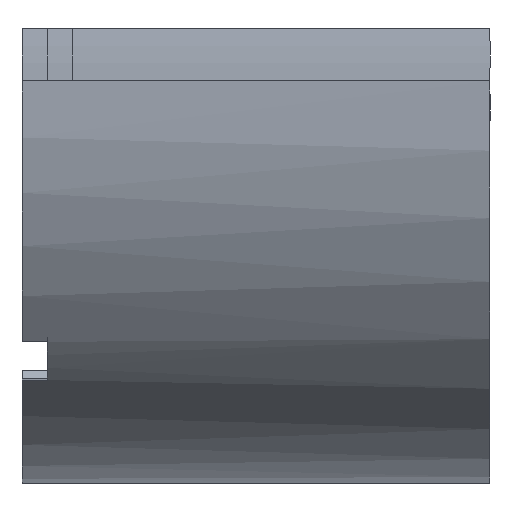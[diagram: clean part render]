
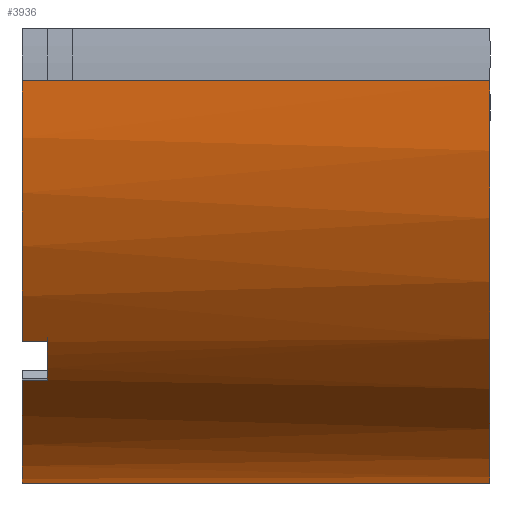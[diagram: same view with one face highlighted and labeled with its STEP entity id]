
A CAD part, top view. The second image highlights one B-rep face of the part: STEP entity #3936.
In plain terms, the highlighted cylindrical face has radius 31.75 mm (diameter 63.5 mm), a partial arc.
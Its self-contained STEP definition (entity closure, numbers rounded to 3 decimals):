
#2144 = PLANE('',#2145);
#2145 = AXIS2_PLACEMENT_3D('',#2146,#2147,#2148);
#2146 = CARTESIAN_POINT('',(37.75,32.,32.));
#2147 = DIRECTION('',(1.,0.,0.));
#2148 = DIRECTION('',(0.,0.,1.));
#2245 = PLANE('',#2246);
#2246 = AXIS2_PLACEMENT_3D('',#2247,#2248,#2249);
#2247 = CARTESIAN_POINT('',(0.75,32.,32.));
#2248 = DIRECTION('',(0.,1.,0.));
#2249 = DIRECTION('',(0.,0.,1.));
#2272 = PLANE('',#2273);
#2273 = AXIS2_PLACEMENT_3D('',#2274,#2275,#2276);
#2274 = CARTESIAN_POINT('',(0.75,32.,32.));
#2275 = DIRECTION('',(1.,0.,0.));
#2276 = DIRECTION('',(0.,0.,1.));
#2406 = CYLINDRICAL_SURFACE('',#2407,3.7);
#2407 = AXIS2_PLACEMENT_3D('',#2408,#2409,#2410);
#2408 = CARTESIAN_POINT('',(0.75,12.,52.5));
#2409 = DIRECTION('',(1.,0.,0.));
#2410 = DIRECTION('',(0.,0.,-1.));
#2434 = PLANE('',#2435);
#2435 = AXIS2_PLACEMENT_3D('',#2436,#2437,#2438);
#2436 = CARTESIAN_POINT('',(2.75,12.,52.5));
#2437 = DIRECTION('',(1.,0.,0.));
#2438 = DIRECTION('',(0.,0.,-1.));
#2461 = CYLINDRICAL_SURFACE('',#2462,3.7);
#2462 = AXIS2_PLACEMENT_3D('',#2463,#2464,#2465);
#2463 = CARTESIAN_POINT('',(0.75,12.,52.5));
#2464 = DIRECTION('',(1.,0.,0.));
#2465 = DIRECTION('',(0.,0.,-1.));
#2489 = PLANE('',#2490);
#2490 = AXIS2_PLACEMENT_3D('',#2491,#2492,#2493);
#2491 = CARTESIAN_POINT('',(0.75,32.,32.));
#2492 = DIRECTION('',(1.,0.,0.));
#2493 = DIRECTION('',(0.,0.,1.));
#2922 = EDGE_CURVE('',#2923,#2925,#2927,.T.);
#2923 = VERTEX_POINT('',#2924);
#2924 = CARTESIAN_POINT('',(37.75,32.,63.75));
#2925 = VERTEX_POINT('',#2926);
#2926 = CARTESIAN_POINT('',(37.75,0.25,32.));
#2927 = SURFACE_CURVE('',#2928,(#2933,#2940),.PCURVE_S1.);
#2928 = CIRCLE('',#2929,31.75);
#2929 = AXIS2_PLACEMENT_3D('',#2930,#2931,#2932);
#2930 = CARTESIAN_POINT('',(37.75,32.,32.));
#2931 = DIRECTION('',(1.,0.,-0.));
#2932 = DIRECTION('',(0.,0.,1.));
#2933 = PCURVE('',#2144,#2934);
#2934 = DEFINITIONAL_REPRESENTATION('',(#2935),#2939);
#2935 = CIRCLE('',#2936,31.75);
#2936 = AXIS2_PLACEMENT_2D('',#2937,#2938);
#2937 = CARTESIAN_POINT('',(0.,0.));
#2938 = DIRECTION('',(1.,0.));
#2939 = ( GEOMETRIC_REPRESENTATION_CONTEXT(2) 
PARAMETRIC_REPRESENTATION_CONTEXT() REPRESENTATION_CONTEXT('2D SPACE',''
  ) );
#2940 = PCURVE('',#2941,#2946);
#2941 = CYLINDRICAL_SURFACE('',#2942,31.75);
#2942 = AXIS2_PLACEMENT_3D('',#2943,#2944,#2945);
#2943 = CARTESIAN_POINT('',(0.75,32.,32.));
#2944 = DIRECTION('',(1.,0.,0.));
#2945 = DIRECTION('',(0.,0.,1.));
#2946 = DEFINITIONAL_REPRESENTATION('',(#2947),#2951);
#2947 = LINE('',#2948,#2949);
#2948 = CARTESIAN_POINT('',(0.,37.));
#2949 = VECTOR('',#2950,1.);
#2950 = DIRECTION('',(1.,0.));
#2951 = ( GEOMETRIC_REPRESENTATION_CONTEXT(2) 
PARAMETRIC_REPRESENTATION_CONTEXT() REPRESENTATION_CONTEXT('2D SPACE',''
  ) );
#3010 = VERTEX_POINT('',#3011);
#3011 = CARTESIAN_POINT('',(0.75,32.,63.75));
#3032 = EDGE_CURVE('',#3010,#3033,#3035,.T.);
#3033 = VERTEX_POINT('',#3034);
#3034 = CARTESIAN_POINT('',(0.75,11.387,56.149));
#3035 = SURFACE_CURVE('',#3036,(#3041,#3048),.PCURVE_S1.);
#3036 = CIRCLE('',#3037,31.75);
#3037 = AXIS2_PLACEMENT_3D('',#3038,#3039,#3040);
#3038 = CARTESIAN_POINT('',(0.75,32.,32.));
#3039 = DIRECTION('',(1.,0.,-0.));
#3040 = DIRECTION('',(0.,0.,1.));
#3041 = PCURVE('',#2272,#3042);
#3042 = DEFINITIONAL_REPRESENTATION('',(#3043),#3047);
#3043 = CIRCLE('',#3044,31.75);
#3044 = AXIS2_PLACEMENT_2D('',#3045,#3046);
#3045 = CARTESIAN_POINT('',(0.,0.));
#3046 = DIRECTION('',(1.,0.));
#3047 = ( GEOMETRIC_REPRESENTATION_CONTEXT(2) 
PARAMETRIC_REPRESENTATION_CONTEXT() REPRESENTATION_CONTEXT('2D SPACE',''
  ) );
#3048 = PCURVE('',#2941,#3049);
#3049 = DEFINITIONAL_REPRESENTATION('',(#3050),#3054);
#3050 = LINE('',#3051,#3052);
#3051 = CARTESIAN_POINT('',(0.,0.));
#3052 = VECTOR('',#3053,1.);
#3053 = DIRECTION('',(1.,0.));
#3054 = ( GEOMETRIC_REPRESENTATION_CONTEXT(2) 
PARAMETRIC_REPRESENTATION_CONTEXT() REPRESENTATION_CONTEXT('2D SPACE',''
  ) );
#3152 = EDGE_CURVE('',#3010,#2923,#3153,.T.);
#3153 = SURFACE_CURVE('',#3154,(#3158,#3165),.PCURVE_S1.);
#3154 = LINE('',#3155,#3156);
#3155 = CARTESIAN_POINT('',(0.75,32.,63.75));
#3156 = VECTOR('',#3157,1.);
#3157 = DIRECTION('',(1.,0.,0.));
#3158 = PCURVE('',#2245,#3159);
#3159 = DEFINITIONAL_REPRESENTATION('',(#3160),#3164);
#3160 = LINE('',#3161,#3162);
#3161 = CARTESIAN_POINT('',(31.75,0.));
#3162 = VECTOR('',#3163,1.);
#3163 = DIRECTION('',(0.,1.));
#3164 = ( GEOMETRIC_REPRESENTATION_CONTEXT(2) 
PARAMETRIC_REPRESENTATION_CONTEXT() REPRESENTATION_CONTEXT('2D SPACE',''
  ) );
#3165 = PCURVE('',#2941,#3166);
#3166 = DEFINITIONAL_REPRESENTATION('',(#3167),#3171);
#3167 = LINE('',#3168,#3169);
#3168 = CARTESIAN_POINT('',(0.,-0.));
#3169 = VECTOR('',#3170,1.);
#3170 = DIRECTION('',(0.,1.));
#3171 = ( GEOMETRIC_REPRESENTATION_CONTEXT(2) 
PARAMETRIC_REPRESENTATION_CONTEXT() REPRESENTATION_CONTEXT('2D SPACE',''
  ) );
#3301 = VERTEX_POINT('',#3302);
#3302 = CARTESIAN_POINT('',(0.75,8.367,53.203));
#3324 = EDGE_CURVE('',#3301,#3325,#3327,.T.);
#3325 = VERTEX_POINT('',#3326);
#3326 = CARTESIAN_POINT('',(0.75,0.25,32.));
#3327 = SURFACE_CURVE('',#3328,(#3333,#3340),.PCURVE_S1.);
#3328 = CIRCLE('',#3329,31.75);
#3329 = AXIS2_PLACEMENT_3D('',#3330,#3331,#3332);
#3330 = CARTESIAN_POINT('',(0.75,32.,32.));
#3331 = DIRECTION('',(1.,0.,-0.));
#3332 = DIRECTION('',(0.,0.,1.));
#3333 = PCURVE('',#2489,#3334);
#3334 = DEFINITIONAL_REPRESENTATION('',(#3335),#3339);
#3335 = CIRCLE('',#3336,31.75);
#3336 = AXIS2_PLACEMENT_2D('',#3337,#3338);
#3337 = CARTESIAN_POINT('',(0.,0.));
#3338 = DIRECTION('',(1.,0.));
#3339 = ( GEOMETRIC_REPRESENTATION_CONTEXT(2) 
PARAMETRIC_REPRESENTATION_CONTEXT() REPRESENTATION_CONTEXT('2D SPACE',''
  ) );
#3340 = PCURVE('',#2941,#3341);
#3341 = DEFINITIONAL_REPRESENTATION('',(#3342),#3346);
#3342 = LINE('',#3343,#3344);
#3343 = CARTESIAN_POINT('',(0.,0.));
#3344 = VECTOR('',#3345,1.);
#3345 = DIRECTION('',(1.,0.));
#3346 = ( GEOMETRIC_REPRESENTATION_CONTEXT(2) 
PARAMETRIC_REPRESENTATION_CONTEXT() REPRESENTATION_CONTEXT('2D SPACE',''
  ) );
#3448 = VERTEX_POINT('',#3449);
#3449 = CARTESIAN_POINT('',(2.75,11.387,56.149));
#3473 = EDGE_CURVE('',#3033,#3448,#3474,.T.);
#3474 = SURFACE_CURVE('',#3475,(#3479,#3485),.PCURVE_S1.);
#3475 = LINE('',#3476,#3477);
#3476 = CARTESIAN_POINT('',(0.75,11.387,56.149));
#3477 = VECTOR('',#3478,1.);
#3478 = DIRECTION('',(1.,0.,0.));
#3479 = PCURVE('',#2406,#3480);
#3480 = DEFINITIONAL_REPRESENTATION('',(#3481),#3484);
#3481 = B_SPLINE_CURVE_WITH_KNOTS('',1,(#3482,#3483),.UNSPECIFIED.,.F.,
  .F.,(2,2),(0.,2.),.PIECEWISE_BEZIER_KNOTS.);
#3482 = CARTESIAN_POINT('',(3.308,0.));
#3483 = CARTESIAN_POINT('',(3.308,2.));
#3484 = ( GEOMETRIC_REPRESENTATION_CONTEXT(2) 
PARAMETRIC_REPRESENTATION_CONTEXT() REPRESENTATION_CONTEXT('2D SPACE',''
  ) );
#3485 = PCURVE('',#2941,#3486);
#3486 = DEFINITIONAL_REPRESENTATION('',(#3487),#3490);
#3487 = B_SPLINE_CURVE_WITH_KNOTS('',1,(#3488,#3489),.UNSPECIFIED.,.F.,
  .F.,(2,2),(0.,2.),.PIECEWISE_BEZIER_KNOTS.);
#3488 = CARTESIAN_POINT('',(0.707,0.));
#3489 = CARTESIAN_POINT('',(0.707,2.));
#3490 = ( GEOMETRIC_REPRESENTATION_CONTEXT(2) 
PARAMETRIC_REPRESENTATION_CONTEXT() REPRESENTATION_CONTEXT('2D SPACE',''
  ) );
#3576 = EDGE_CURVE('',#3448,#3577,#3579,.T.);
#3577 = VERTEX_POINT('',#3578);
#3578 = CARTESIAN_POINT('',(2.75,8.367,53.203));
#3579 = SURFACE_CURVE('',#3580,(#3585,#3592),.PCURVE_S1.);
#3580 = CIRCLE('',#3581,31.75);
#3581 = AXIS2_PLACEMENT_3D('',#3582,#3583,#3584);
#3582 = CARTESIAN_POINT('',(2.75,32.,32.));
#3583 = DIRECTION('',(1.,0.,-0.));
#3584 = DIRECTION('',(0.,0.,1.));
#3585 = PCURVE('',#2434,#3586);
#3586 = DEFINITIONAL_REPRESENTATION('',(#3587),#3591);
#3587 = CIRCLE('',#3588,31.75);
#3588 = AXIS2_PLACEMENT_2D('',#3589,#3590);
#3589 = CARTESIAN_POINT('',(20.5,20.));
#3590 = DIRECTION('',(-1.,0.));
#3591 = ( GEOMETRIC_REPRESENTATION_CONTEXT(2) 
PARAMETRIC_REPRESENTATION_CONTEXT() REPRESENTATION_CONTEXT('2D SPACE',''
  ) );
#3592 = PCURVE('',#2941,#3593);
#3593 = DEFINITIONAL_REPRESENTATION('',(#3594),#3598);
#3594 = LINE('',#3595,#3596);
#3595 = CARTESIAN_POINT('',(0.,2.));
#3596 = VECTOR('',#3597,1.);
#3597 = DIRECTION('',(1.,0.));
#3598 = ( GEOMETRIC_REPRESENTATION_CONTEXT(2) 
PARAMETRIC_REPRESENTATION_CONTEXT() REPRESENTATION_CONTEXT('2D SPACE',''
  ) );
#3677 = EDGE_CURVE('',#3301,#3577,#3678,.T.);
#3678 = SURFACE_CURVE('',#3679,(#3683,#3689),.PCURVE_S1.);
#3679 = LINE('',#3680,#3681);
#3680 = CARTESIAN_POINT('',(0.75,8.367,53.203));
#3681 = VECTOR('',#3682,1.);
#3682 = DIRECTION('',(1.,0.,0.));
#3683 = PCURVE('',#2461,#3684);
#3684 = DEFINITIONAL_REPRESENTATION('',(#3685),#3688);
#3685 = B_SPLINE_CURVE_WITH_KNOTS('',1,(#3686,#3687),.UNSPECIFIED.,.F.,
  .F.,(2,2),(0.,2.),.PIECEWISE_BEZIER_KNOTS.);
#3686 = CARTESIAN_POINT('',(4.521,0.));
#3687 = CARTESIAN_POINT('',(4.521,2.));
#3688 = ( GEOMETRIC_REPRESENTATION_CONTEXT(2) 
PARAMETRIC_REPRESENTATION_CONTEXT() REPRESENTATION_CONTEXT('2D SPACE',''
  ) );
#3689 = PCURVE('',#2941,#3690);
#3690 = DEFINITIONAL_REPRESENTATION('',(#3691),#3694);
#3691 = B_SPLINE_CURVE_WITH_KNOTS('',1,(#3692,#3693),.UNSPECIFIED.,.F.,
  .F.,(2,2),(0.,2.),.PIECEWISE_BEZIER_KNOTS.);
#3692 = CARTESIAN_POINT('',(0.84,0.));
#3693 = CARTESIAN_POINT('',(0.84,2.));
#3694 = ( GEOMETRIC_REPRESENTATION_CONTEXT(2) 
PARAMETRIC_REPRESENTATION_CONTEXT() REPRESENTATION_CONTEXT('2D SPACE',''
  ) );
#3936 = ADVANCED_FACE('',(#3937),#2941,.T.);
#3937 = FACE_BOUND('',#3938,.T.);
#3938 = EDGE_LOOP('',(#3939,#3965,#3966,#3967,#3968,#3969,#3970,#3971));
#3939 = ORIENTED_EDGE('',*,*,#3940,.T.);
#3940 = EDGE_CURVE('',#3325,#2925,#3941,.T.);
#3941 = SURFACE_CURVE('',#3942,(#3946,#3953),.PCURVE_S1.);
#3942 = LINE('',#3943,#3944);
#3943 = CARTESIAN_POINT('',(0.75,0.25,32.));
#3944 = VECTOR('',#3945,1.);
#3945 = DIRECTION('',(1.,0.,0.));
#3946 = PCURVE('',#2941,#3947);
#3947 = DEFINITIONAL_REPRESENTATION('',(#3948),#3952);
#3948 = LINE('',#3949,#3950);
#3949 = CARTESIAN_POINT('',(1.571,0.));
#3950 = VECTOR('',#3951,1.);
#3951 = DIRECTION('',(0.,1.));
#3952 = ( GEOMETRIC_REPRESENTATION_CONTEXT(2) 
PARAMETRIC_REPRESENTATION_CONTEXT() REPRESENTATION_CONTEXT('2D SPACE',''
  ) );
#3953 = PCURVE('',#3954,#3959);
#3954 = PLANE('',#3955);
#3955 = AXIS2_PLACEMENT_3D('',#3956,#3957,#3958);
#3956 = CARTESIAN_POINT('',(0.75,0.25,15.75));
#3957 = DIRECTION('',(0.,1.,0.));
#3958 = DIRECTION('',(0.,0.,1.));
#3959 = DEFINITIONAL_REPRESENTATION('',(#3960),#3964);
#3960 = LINE('',#3961,#3962);
#3961 = CARTESIAN_POINT('',(16.25,0.));
#3962 = VECTOR('',#3963,1.);
#3963 = DIRECTION('',(0.,1.));
#3964 = ( GEOMETRIC_REPRESENTATION_CONTEXT(2) 
PARAMETRIC_REPRESENTATION_CONTEXT() REPRESENTATION_CONTEXT('2D SPACE',''
  ) );
#3965 = ORIENTED_EDGE('',*,*,#2922,.F.);
#3966 = ORIENTED_EDGE('',*,*,#3152,.F.);
#3967 = ORIENTED_EDGE('',*,*,#3032,.T.);
#3968 = ORIENTED_EDGE('',*,*,#3473,.T.);
#3969 = ORIENTED_EDGE('',*,*,#3576,.T.);
#3970 = ORIENTED_EDGE('',*,*,#3677,.F.);
#3971 = ORIENTED_EDGE('',*,*,#3324,.T.);
